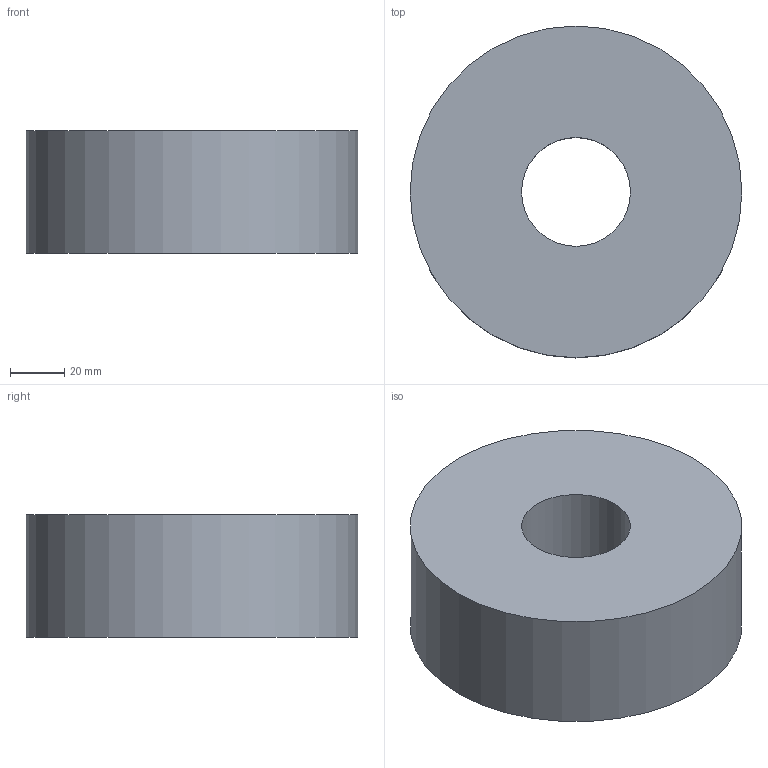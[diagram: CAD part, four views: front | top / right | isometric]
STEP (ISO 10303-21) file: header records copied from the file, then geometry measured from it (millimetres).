
FILE_DESCRIPTION(('FreeCAD Model'),'2;1');
FILE_NAME('Open CASCADE Shape Model','2024-12-24T09:31:11',('Author'),( ''),'Open CASCADE STEP processor 7.8','FreeCAD','Unknown');
FILE_SCHEMA(('AUTOMOTIVE_DESIGN { 1 0 10303 214 1 1 1 1 }'));
Length unit declared in the file: millimetre
Products named in the file (1): Body
Bounding box: 122 x 122 x 45 mm (x, y, z)
Volume: 469495.3 mm3; surface area: 43768.7 mm2
Topology: 1 solids, 1 shells, 4 faces, 6 edges, 4 vertices
Faces by surface type: cylinder 2, plane 2
Full cylindrical faces by diameter (mm): 40 x1, 122 x1
Entity records: 198 total; most frequent: DIRECTION 32, CARTESIAN_POINT 27, ORIENTED_EDGE 12, PCURVE 12, DEFINITIONAL_REPRESENTATION 12, LINE 10, VECTOR 10, AXIS2_PLACEMENT_3D 9
